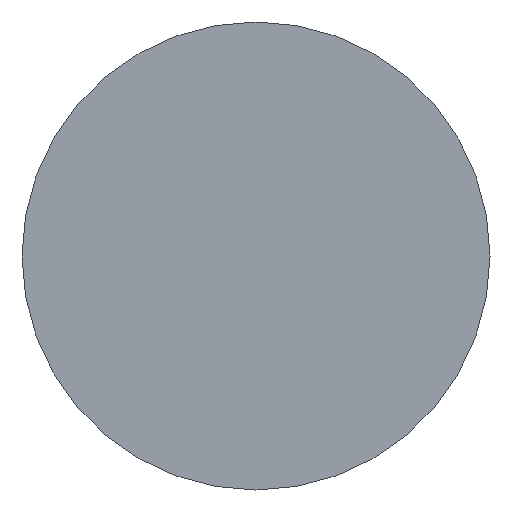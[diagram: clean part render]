
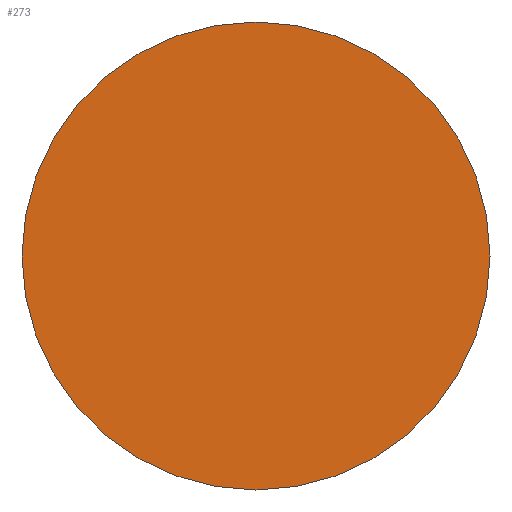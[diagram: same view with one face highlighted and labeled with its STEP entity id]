
A CAD part, left-side view. The second image highlights one B-rep face of the part: STEP entity #273.
In plain terms, the highlighted planar face has unit normal (-1, 0, 0).
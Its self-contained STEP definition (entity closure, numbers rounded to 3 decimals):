
#5 = PLANE ( 'NONE',  #235 ) ;
#47 = CARTESIAN_POINT ( 'NONE',  ( 0., 0., 0.9 ) ) ;
#70 = AXIS2_PLACEMENT_3D ( 'NONE', #132, #188, #227 ) ;
#80 = CIRCLE ( 'NONE', #239, 0.9 ) ;
#84 = DIRECTION ( 'NONE',  ( 1., 0., 0. ) ) ;
#99 = DIRECTION ( 'NONE',  ( 0., 0., 1. ) ) ;
#106 = DIRECTION ( 'NONE',  ( 0., 0., -1. ) ) ;
#126 = VERTEX_POINT ( 'NONE', #47 ) ;
#132 = CARTESIAN_POINT ( 'NONE',  ( 0., 0., 0. ) ) ;
#133 = EDGE_CURVE ( 'NONE', #162, #126, #247, .T. ) ;
#162 = VERTEX_POINT ( 'NONE', #270 ) ;
#177 = EDGE_LOOP ( 'NONE', ( #183, #277 ) ) ;
#183 = ORIENTED_EDGE ( 'NONE', *, *, #274, .T. ) ;
#188 = DIRECTION ( 'NONE',  ( -1., 0., 0. ) ) ;
#189 = CARTESIAN_POINT ( 'NONE',  ( 0., 0., 0. ) ) ;
#205 = FACE_OUTER_BOUND ( 'NONE', #177, .T. ) ;
#212 = CARTESIAN_POINT ( 'NONE',  ( 0., 0., 0. ) ) ;
#227 = DIRECTION ( 'NONE',  ( 0., 0., 1. ) ) ;
#235 = AXIS2_PLACEMENT_3D ( 'NONE', #189, #84, #106 ) ;
#239 = AXIS2_PLACEMENT_3D ( 'NONE', #212, #242, #99 ) ;
#242 = DIRECTION ( 'NONE',  ( -1., 0., 0. ) ) ;
#247 = CIRCLE ( 'NONE', #70, 0.9 ) ;
#270 = CARTESIAN_POINT ( 'NONE',  ( 0., 0., -0.9 ) ) ;
#273 = ADVANCED_FACE ( 'NONE', ( #205 ), #5, .F. ) ;
#274 = EDGE_CURVE ( 'NONE', #126, #162, #80, .T. ) ;
#277 = ORIENTED_EDGE ( 'NONE', *, *, #133, .T. ) ;
